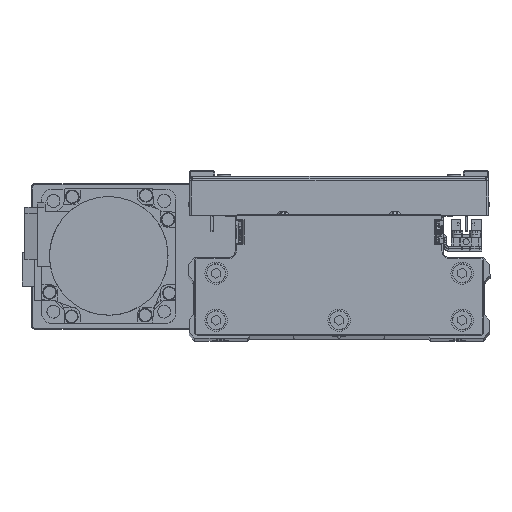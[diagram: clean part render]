
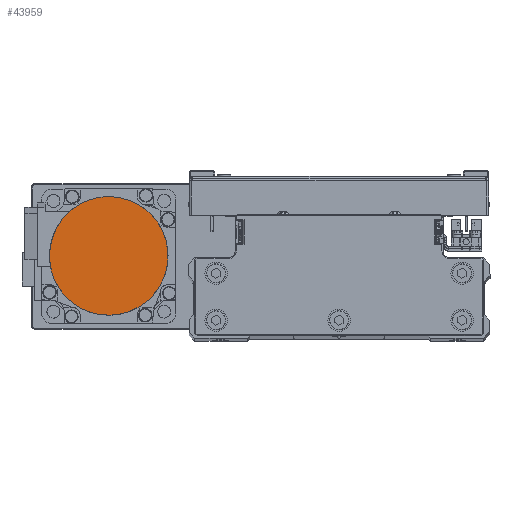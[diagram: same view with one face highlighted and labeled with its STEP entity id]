
A CAD part, top view. The second image highlights one B-rep face of the part: STEP entity #43959.
In plain terms, the highlighted planar face has unit normal (0, 0, 1) as drawn and (0, 0, -1) by its records, which use the part's own axes.
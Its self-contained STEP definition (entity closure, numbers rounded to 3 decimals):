
#359 = CARTESIAN_POINT ( 'NONE',  ( -11.744, -23.819, -109.7 ) ) ;
#571 = CARTESIAN_POINT ( 'NONE',  ( 19.965, -17.512, -109.7 ) ) ;
#1351 = CARTESIAN_POINT ( 'NONE',  ( 26.329, 3.469, -109.7 ) ) ;
#1580 = CARTESIAN_POINT ( 'NONE',  ( 3.469, 26.329, -109.7 ) ) ;
#1797 = CARTESIAN_POINT ( 'NONE',  ( -23.819, 11.744, -109.7 ) ) ;
#3707 = CARTESIAN_POINT ( 'NONE',  ( -17.512, -19.965, -109.7 ) ) ;
#3926 = CARTESIAN_POINT ( 'NONE',  ( 13.28, -22.998, -109.7 ) ) ;
#4922 = CARTESIAN_POINT ( 'NONE',  ( 11.744, 23.819, -109.7 ) ) ;
#4975 = AXIS2_PLACEMENT_3D ( 'NONE', #36310, #5816, #19404 ) ;
#5154 = CARTESIAN_POINT ( 'NONE',  ( -19.965, 17.512, -109.7 ) ) ;
#5816 = DIRECTION ( 'NONE',  ( 0., 0., 1. ) ) ;
#5884 = VERTEX_POINT ( 'NONE', #21418 ) ;
#7053 = CARTESIAN_POINT ( 'NONE',  ( -22.998, -13.28, -109.7 ) ) ;
#7283 = CARTESIAN_POINT ( 'NONE',  ( 6.871, -25.652, -109.7 ) ) ;
#7489 = CARTESIAN_POINT ( 'NONE',  ( 26.5, -1.734, -109.7 ) ) ;
#8255 = CARTESIAN_POINT ( 'NONE',  ( 17.512, 19.965, -109.7 ) ) ;
#8485 = CARTESIAN_POINT ( 'NONE',  ( -13.28, 22.998, -109.7 ) ) ;
#9146 = FACE_OUTER_BOUND ( 'NONE', #39503, .T. ) ;
#10398 = CARTESIAN_POINT ( 'NONE',  ( -25.652, -6.871, -109.7 ) ) ;
#10594 = B_SPLINE_CURVE_WITH_KNOTS ( 'NONE', 3,
 ( #18288, #31861, #1351, #14955, #28534, #42087, #11616, #25189, #38756, #8255, #21840, #35432, #4922, #18519, #32096, #1580, #15183, #28752, #42296, #11830, #25404, #38974, #8485, #22066, #35664, #5154, #18742, #32323, #1797, #15397, #28962, #42515, #12058, #25636 ),
 .UNSPECIFIED., .F., .F.,
 ( 4, 2, 2, 2, 2, 2, 2, 2, 2, 2, 2, 2, 2, 2, 2, 2, 4 ),
 ( 0., 0.062, 0.125, 0.187, 0.25, 0.312, 0.375, 0.437, 0.5, 0.562, 0.625, 0.687, 0.75, 0.813, 0.875, 0.938, 1. ),
 .UNSPECIFIED. ) ;
#10622 = CARTESIAN_POINT ( 'NONE',  ( -1.734, -26.5, -109.7 ) ) ;
#10847 = CARTESIAN_POINT ( 'NONE',  ( 25.147, -8.539, -109.7 ) ) ;
#11616 = CARTESIAN_POINT ( 'NONE',  ( 22.998, 13.28, -109.7 ) ) ;
#11830 = CARTESIAN_POINT ( 'NONE',  ( -6.871, 25.652, -109.7 ) ) ;
#12058 = CARTESIAN_POINT ( 'NONE',  ( -26.5, 1.734, -109.7 ) ) ;
#13001 = B_SPLINE_CURVE_WITH_KNOTS ( 'NONE', 3,
 ( #13746, #27320, #40867, #10398, #23966, #37539, #7053, #20644, #34227, #3707, #17309, #30882, #359, #13960, #27529, #41080, #10622, #24190, #37773, #7283, #20865, #34449, #3926, #17523, #31090, #571, #14182, #27755, #41312, #10847, #24414, #37991, #7489, #21077 ),
 .UNSPECIFIED., .F., .F.,
 ( 4, 2, 2, 2, 2, 2, 2, 2, 2, 2, 2, 2, 2, 2, 2, 2, 4 ),
 ( 0., 0.063, 0.125, 0.188, 0.25, 0.312, 0.375, 0.437, 0.5, 0.562, 0.625, 0.687, 0.75, 0.813, 0.875, 0.938, 1. ),
 .UNSPECIFIED. ) ;
#13746 = CARTESIAN_POINT ( 'NONE',  ( -26.5, 0., -109.7 ) ) ;
#13960 = CARTESIAN_POINT ( 'NONE',  ( -8.539, -25.147, -109.7 ) ) ;
#14182 = CARTESIAN_POINT ( 'NONE',  ( 21.07, -16.165, -109.7 ) ) ;
#14955 = CARTESIAN_POINT ( 'NONE',  ( 25.652, 6.871, -109.7 ) ) ;
#15183 = CARTESIAN_POINT ( 'NONE',  ( 1.734, 26.5, -109.7 ) ) ;
#15397 = CARTESIAN_POINT ( 'NONE',  ( -25.147, 8.539, -109.7 ) ) ;
#17309 = CARTESIAN_POINT ( 'NONE',  ( -16.165, -21.07, -109.7 ) ) ;
#17523 = CARTESIAN_POINT ( 'NONE',  ( 16.165, -21.07, -109.7 ) ) ;
#18288 = CARTESIAN_POINT ( 'NONE',  ( 26.5, 0., -109.7 ) ) ;
#18405 = CARTESIAN_POINT ( 'NONE',  ( -26.5, 0., -109.7 ) ) ;
#18519 = CARTESIAN_POINT ( 'NONE',  ( 8.539, 25.147, -109.7 ) ) ;
#18742 = CARTESIAN_POINT ( 'NONE',  ( -21.07, 16.165, -109.7 ) ) ;
#19404 = DIRECTION ( 'NONE',  ( 1., 0., 0. ) ) ;
#19529 = EDGE_CURVE ( 'NONE', #5884, #43474, #10594, .T. ) ;
#20282 = ORIENTED_EDGE ( 'NONE', *, *, #43372, .F. ) ;
#20644 = CARTESIAN_POINT ( 'NONE',  ( -21.07, -16.165, -109.7 ) ) ;
#20865 = CARTESIAN_POINT ( 'NONE',  ( 8.539, -25.147, -109.7 ) ) ;
#21077 = CARTESIAN_POINT ( 'NONE',  ( 26.5, 0., -109.7 ) ) ;
#21418 = CARTESIAN_POINT ( 'NONE',  ( 26.5, 0., -109.7 ) ) ;
#21840 = CARTESIAN_POINT ( 'NONE',  ( 16.165, 21.07, -109.7 ) ) ;
#22066 = CARTESIAN_POINT ( 'NONE',  ( -16.165, 21.07, -109.7 ) ) ;
#22732 = PLANE ( 'NONE',  #4975 ) ;
#23966 = CARTESIAN_POINT ( 'NONE',  ( -25.147, -8.539, -109.7 ) ) ;
#24190 = CARTESIAN_POINT ( 'NONE',  ( 1.734, -26.5, -109.7 ) ) ;
#24414 = CARTESIAN_POINT ( 'NONE',  ( 25.652, -6.871, -109.7 ) ) ;
#25189 = CARTESIAN_POINT ( 'NONE',  ( 21.07, 16.165, -109.7 ) ) ;
#25404 = CARTESIAN_POINT ( 'NONE',  ( -8.539, 25.147, -109.7 ) ) ;
#25636 = CARTESIAN_POINT ( 'NONE',  ( -26.5, 0., -109.7 ) ) ;
#26932 = ORIENTED_EDGE ( 'NONE', *, *, #19529, .F. ) ;
#27320 = CARTESIAN_POINT ( 'NONE',  ( -26.5, -1.734, -109.7 ) ) ;
#27529 = CARTESIAN_POINT ( 'NONE',  ( -6.871, -25.652, -109.7 ) ) ;
#27755 = CARTESIAN_POINT ( 'NONE',  ( 22.998, -13.28, -109.7 ) ) ;
#28534 = CARTESIAN_POINT ( 'NONE',  ( 25.147, 8.539, -109.7 ) ) ;
#28752 = CARTESIAN_POINT ( 'NONE',  ( -1.734, 26.5, -109.7 ) ) ;
#28962 = CARTESIAN_POINT ( 'NONE',  ( -25.652, 6.871, -109.7 ) ) ;
#30882 = CARTESIAN_POINT ( 'NONE',  ( -13.28, -22.998, -109.7 ) ) ;
#31090 = CARTESIAN_POINT ( 'NONE',  ( 17.512, -19.965, -109.7 ) ) ;
#31861 = CARTESIAN_POINT ( 'NONE',  ( 26.5, 1.734, -109.7 ) ) ;
#32096 = CARTESIAN_POINT ( 'NONE',  ( 6.871, 25.652, -109.7 ) ) ;
#32323 = CARTESIAN_POINT ( 'NONE',  ( -22.998, 13.28, -109.7 ) ) ;
#34227 = CARTESIAN_POINT ( 'NONE',  ( -19.965, -17.512, -109.7 ) ) ;
#34449 = CARTESIAN_POINT ( 'NONE',  ( 11.744, -23.819, -109.7 ) ) ;
#35432 = CARTESIAN_POINT ( 'NONE',  ( 13.28, 22.998, -109.7 ) ) ;
#35664 = CARTESIAN_POINT ( 'NONE',  ( -17.512, 19.965, -109.7 ) ) ;
#36310 = CARTESIAN_POINT ( 'NONE',  ( 0., 0., -109.7 ) ) ;
#37539 = CARTESIAN_POINT ( 'NONE',  ( -23.819, -11.744, -109.7 ) ) ;
#37773 = CARTESIAN_POINT ( 'NONE',  ( 3.469, -26.329, -109.7 ) ) ;
#37991 = CARTESIAN_POINT ( 'NONE',  ( 26.329, -3.469, -109.7 ) ) ;
#38756 = CARTESIAN_POINT ( 'NONE',  ( 19.965, 17.512, -109.7 ) ) ;
#38974 = CARTESIAN_POINT ( 'NONE',  ( -11.744, 23.819, -109.7 ) ) ;
#39503 = EDGE_LOOP ( 'NONE', ( #26932, #20282 ) ) ;
#40867 = CARTESIAN_POINT ( 'NONE',  ( -26.329, -3.469, -109.7 ) ) ;
#41080 = CARTESIAN_POINT ( 'NONE',  ( -3.469, -26.329, -109.7 ) ) ;
#41312 = CARTESIAN_POINT ( 'NONE',  ( 23.819, -11.744, -109.7 ) ) ;
#42087 = CARTESIAN_POINT ( 'NONE',  ( 23.819, 11.744, -109.7 ) ) ;
#42296 = CARTESIAN_POINT ( 'NONE',  ( -3.469, 26.329, -109.7 ) ) ;
#42515 = CARTESIAN_POINT ( 'NONE',  ( -26.329, 3.469, -109.7 ) ) ;
#43372 = EDGE_CURVE ( 'NONE', #43474, #5884, #13001, .T. ) ;
#43474 = VERTEX_POINT ( 'NONE', #18405 ) ;
#43959 = ADVANCED_FACE ( 'NONE', ( #9146 ), #22732, .F. ) ;
